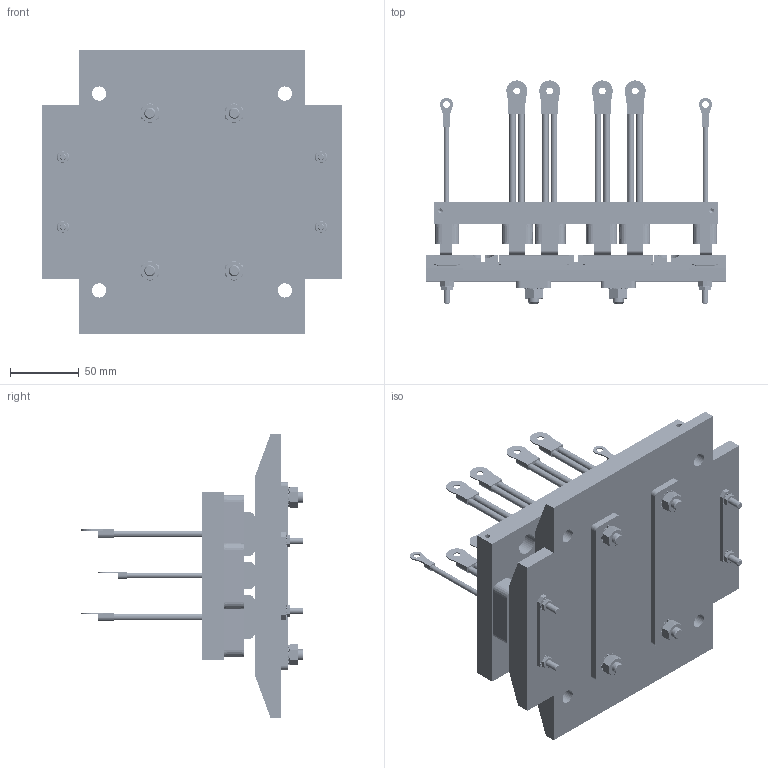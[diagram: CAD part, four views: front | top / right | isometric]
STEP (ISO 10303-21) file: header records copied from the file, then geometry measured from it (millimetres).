
FILE_DESCRIPTION (( 'STEP AP214' ), '1' );
FILE_NAME ('XA-BCL300A2WP.STEP', '2016-09-16T20:49:10', ( 'admin' ), ( 'Microsoft' ), 'SwSTEP 2.0', 'SolidWorks 2014', '' );
FILE_SCHEMA (( 'AUTOMOTIVE_DESIGN' ));
Length unit declared in the file: inch
Products named in the file (25): XA-564459; XA-100289_B18.2.4.1M - Hex nut, Style 1,  M8 x 1.25 --D-C; XA-567871_B18.3.5M - 5 x 0.8 x 35 Socket FCHS  -- 35C; XA-564381_DEFAULT; XA-564460; XA-568320_DEFAULT; XA-BCB300A2WP; XA-565023_XA-565023B; XA-567846; XA-567847; XA-BCC300A2WP; XA-562700_default; XA-BCL300A2WP; XA-562732; XA-564426_B18.21.2M-External Tooth Lock Washers_AM5; XA-564988_XA-564988C; XA-564413; XA-564394; XA-562687_XA-562687; XA-564384_B18.21.2M-External Tooth Lock Washers_AM8; XA-562899; XA-564382_B18.3.5M - 8 x 1.25 x 35 Socket FCHS  -- 35C; XA-564425; XA-564824_default; XA-562727
Assembly tree (124 placements, depth 3):
  XA-BCL300A2WP
    XA-BCB300A2WP
      XA-567846
      XA-565023_XA-565023B  x4
      XA-564460  x2
      XA-564459  x2
      XA-564382_B18.3.5M - 8 x 1.25 x 35 Socket FCHS  -- 35C  x4
      XA-564988_XA-564988C  x4
      XA-562899  x2
      XA-564425  x2
      XA-564426_B18.21.2M-External Tooth Lock Washers_AM5  x4
      XA-564384_B18.21.2M-External Tooth Lock Washers_AM8  x4
      XA-567871_B18.3.5M - 5 x 0.8 x 35 Socket FCHS  -- 35C  x4
      XA-100289_B18.2.4.1M - Hex nut, Style 1,  M8 x 1.25 --D-C  x4
      XA-568320_DEFAULT  x4
    XA-BCC300A2WP
      XA-567847
      XA-562700_default  x8
      XA-562732  x8
      XA-564394  x16
      XA-564824_default  x20
      XA-564381_DEFAULT  x20
      XA-564413  x4
      XA-562727  x2
      XA-562687_XA-562687  x2
Bounding box: 217.42 x 161.8 x 206.38 mm (x, y, z)
Volume: 1292239.2 mm3; surface area: 414327.9 mm2
Topology: 122 solids, 138 shells, 3374 faces, 8232 edges, 5180 vertices
Faces by surface type: plane 1588, cylinder 946, cone 584, bspline 200, torus 56
Entity records: 44956 total; most frequent: CARTESIAN_POINT 18793, DIRECTION 5270, ORIENTED_EDGE 4720, EDGE_CURVE 2360, AXIS2_PLACEMENT_3D 1960, VERTEX_POINT 1521, VECTOR 1350, LINE 1350
